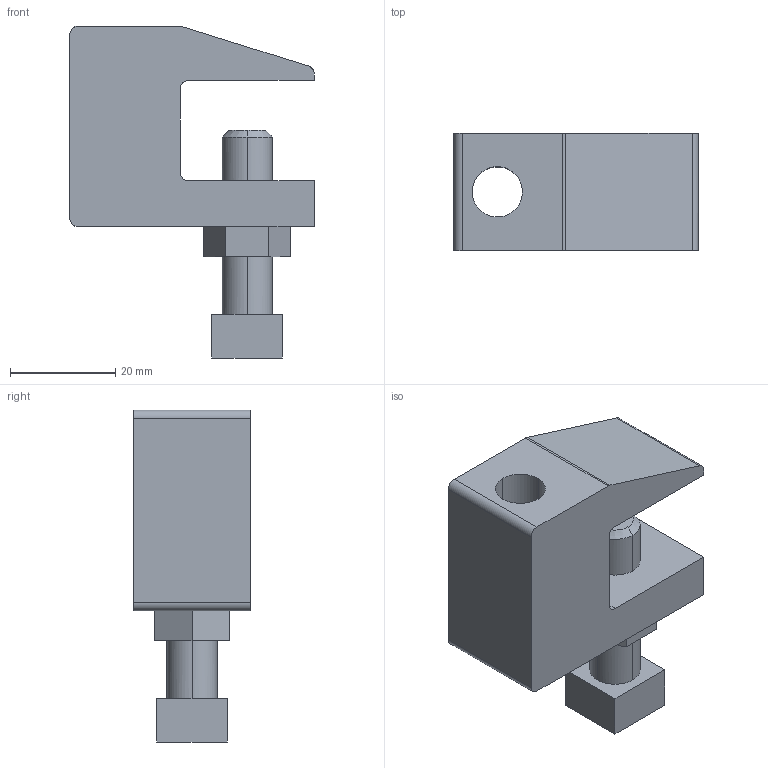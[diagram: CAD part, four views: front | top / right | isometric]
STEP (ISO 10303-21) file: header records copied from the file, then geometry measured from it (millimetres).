
FILE_DESCRIPTION(('TurboCAD Mac Pro'),'Build 980');
FILE_NAME('P2898-37.stp',' ',(''),(''),'ACIS Interop','IMSI','TurboCAD Mac Pro BY IMSI, INCORPORATED');
FILE_SCHEMA(('automotive_design'));
Length unit declared in the file: inch
Products named in the file (3): 1; 2; 3
Bounding box: 46.35 x 22.23 x 62.99 mm (x, y, z)
Volume: 27446.1 mm3; surface area: 10624.2 mm2
Topology: 3 solids, 3 shells, 52 faces, 131 edges, 86 vertices
Faces by surface type: plane 26, bspline 25, cylinder 1
Entity records: 2501 total; most frequent: CARTESIAN_POINT 917, ORIENTED_EDGE 262, DIRECTION 147, EDGE_CURVE 131, VERTEX_POINT 86, LINE 83, VECTOR 83, EDGE_LOOP 59
